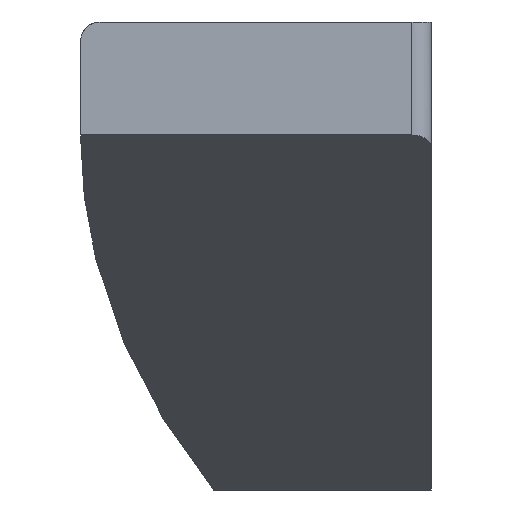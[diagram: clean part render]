
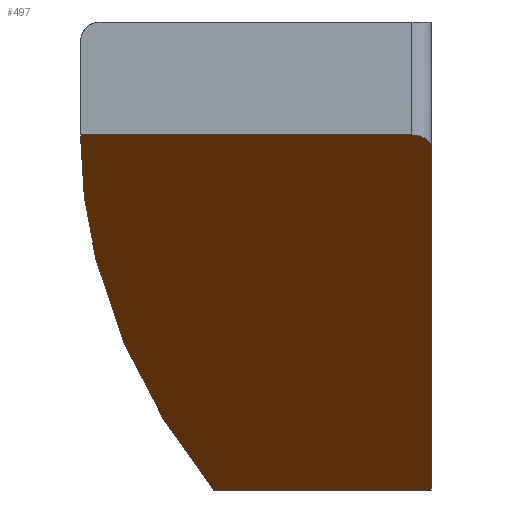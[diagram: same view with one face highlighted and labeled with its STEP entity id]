
A CAD part, front view. The second image highlights one B-rep face of the part: STEP entity #497.
In plain terms, the highlighted planar face has unit normal (0, -0.574, -0.819).
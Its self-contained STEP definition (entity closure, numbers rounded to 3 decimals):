
#32 =( BOUNDED_CURVE ( )  B_SPLINE_CURVE ( 3, ( #403, #92, #254, #303 ),
 .UNSPECIFIED., .F., .F. ) 
 B_SPLINE_CURVE_WITH_KNOTS ( ( 4, 4 ),
 ( 1.058, 1.571 ),
 .UNSPECIFIED. ) 
 CURVE ( )  GEOMETRIC_REPRESENTATION_ITEM ( )  RATIONAL_B_SPLINE_CURVE ( ( 1., 0.978, 0.978, 1. ) ) 
 REPRESENTATION_ITEM ( '' )  );
#49 = DIRECTION ( 'NONE',  ( 0., -0.574, -0.819 ) ) ;
#69 = VERTEX_POINT ( 'NONE', #393 ) ;
#92 = CARTESIAN_POINT ( 'NONE',  ( -253.388, 90.094, 27.943 ) ) ;
#110 = ORIENTED_EDGE ( 'NONE', *, *, #343, .T. ) ;
#154 = CARTESIAN_POINT ( 'NONE',  ( -180., 0., 91.027 ) ) ;
#165 = FACE_OUTER_BOUND ( 'NONE', #356, .T. ) ;
#210 = CARTESIAN_POINT ( 'NONE',  ( -177.071, 0., 91.027 ) ) ;
#229 = ORIENTED_EDGE ( 'NONE', *, *, #459, .F. ) ;
#254 = CARTESIAN_POINT ( 'NONE',  ( -265., 45.795, 58.961 ) ) ;
#277 = LINE ( 'NONE', #548, #316 ) ;
#286 = CARTESIAN_POINT ( 'NONE',  ( -175., 130., 0. ) ) ;
#294 =( BOUNDED_CURVE ( )  B_SPLINE_CURVE ( 3, ( #335, #551, #210, #154 ),
 .UNSPECIFIED., .F., .T. ) 
 B_SPLINE_CURVE_WITH_KNOTS ( ( 4, 4 ),
 ( 4.712, 6.283 ),
 .UNSPECIFIED. ) 
 CURVE ( )  GEOMETRIC_REPRESENTATION_ITEM ( )  RATIONAL_B_SPLINE_CURVE ( ( 1., 0.805, 0.805, 1. ) ) 
 REPRESENTATION_ITEM ( '' )  );
#297 = VERTEX_POINT ( 'NONE', #366 ) ;
#299 = CARTESIAN_POINT ( 'NONE',  ( -175., 0., 91.027 ) ) ;
#301 = DIRECTION ( 'NONE',  ( -1., 0., 0. ) ) ;
#303 = CARTESIAN_POINT ( 'NONE',  ( -265., 0., 91.027 ) ) ;
#316 = VECTOR ( 'NONE', #454, 1000. ) ;
#320 = EDGE_CURVE ( 'NONE', #336, #297, #277, .T. ) ;
#333 = LINE ( 'NONE', #344, #359 ) ;
#335 = CARTESIAN_POINT ( 'NONE',  ( -175., 5., 87.526 ) ) ;
#336 = VERTEX_POINT ( 'NONE', #286 ) ;
#343 = EDGE_CURVE ( 'NONE', #384, #515, #294, .T. ) ;
#344 = CARTESIAN_POINT ( 'NONE',  ( -175., 0., 91.027 ) ) ;
#345 = ORIENTED_EDGE ( 'NONE', *, *, #320, .F. ) ;
#356 = EDGE_LOOP ( 'NONE', ( #469, #110, #451, #229, #345 ) ) ;
#359 = VECTOR ( 'NONE', #385, 1000. ) ;
#366 = CARTESIAN_POINT ( 'NONE',  ( -230.922, 130., 0. ) ) ;
#384 = VERTEX_POINT ( 'NONE', #432 ) ;
#385 = DIRECTION ( 'NONE',  ( 1., 0., 0. ) ) ;
#393 = CARTESIAN_POINT ( 'NONE',  ( -265., 0., 91.027 ) ) ;
#397 = CARTESIAN_POINT ( 'NONE',  ( -180., 0., 91.027 ) ) ;
#403 = CARTESIAN_POINT ( 'NONE',  ( -230.922, 130., 0. ) ) ;
#412 = EDGE_CURVE ( 'NONE', #69, #515, #333, .T. ) ;
#422 = AXIS2_PLACEMENT_3D ( 'NONE', #299, #49, #301 ) ;
#432 = CARTESIAN_POINT ( 'NONE',  ( -175., 5., 87.526 ) ) ;
#434 = EDGE_CURVE ( 'NONE', #384, #336, #468, .T. ) ;
#451 = ORIENTED_EDGE ( 'NONE', *, *, #412, .F. ) ;
#454 = DIRECTION ( 'NONE',  ( -1., 0., 0. ) ) ;
#459 = EDGE_CURVE ( 'NONE', #297, #69, #32, .T. ) ;
#468 = LINE ( 'NONE', #516, #530 ) ;
#469 = ORIENTED_EDGE ( 'NONE', *, *, #434, .F. ) ;
#497 = ADVANCED_FACE ( 'NONE', ( #165 ), #531, .T. ) ;
#510 = DIRECTION ( 'NONE',  ( 0., 0.819, -0.574 ) ) ;
#515 = VERTEX_POINT ( 'NONE', #397 ) ;
#516 = CARTESIAN_POINT ( 'NONE',  ( -175., 42.769, 61.08 ) ) ;
#530 = VECTOR ( 'NONE', #510, 1000. ) ;
#531 = PLANE ( 'NONE',  #422 ) ;
#548 = CARTESIAN_POINT ( 'NONE',  ( -265., 130., 0. ) ) ;
#551 = CARTESIAN_POINT ( 'NONE',  ( -175., 2.071, 89.577 ) ) ;
